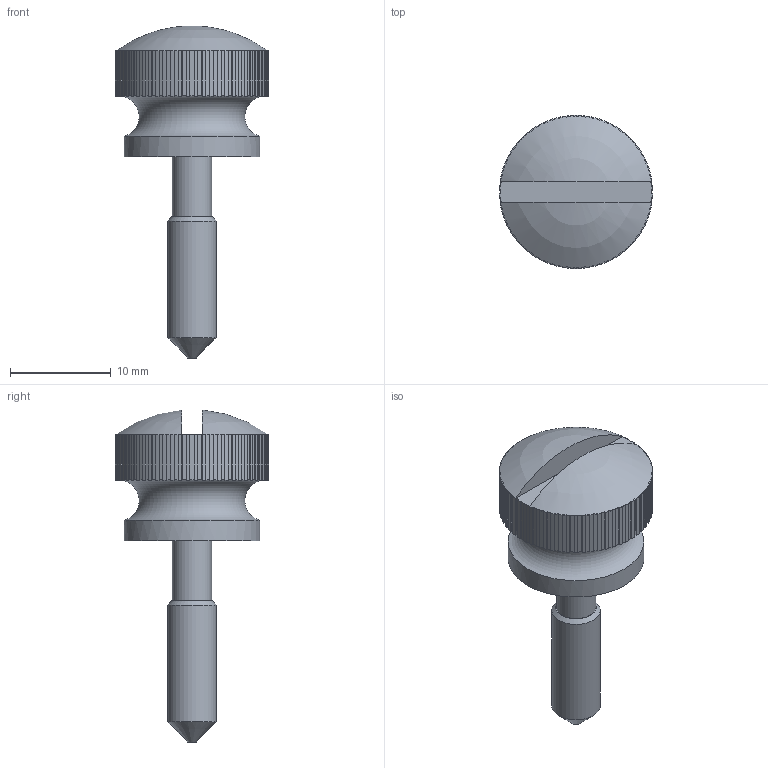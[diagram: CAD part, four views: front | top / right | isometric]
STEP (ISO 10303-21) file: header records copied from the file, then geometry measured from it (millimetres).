
FILE_DESCRIPTION(/* description */ (''),/* implementation_level */ '2;1');
FILE_NAME(/* name */ '\\SYNOLOGYNAS\web\db2\K-HSH15-M5_M\도면\M5\K-HSH15-M5-20.stp',/* time_stamp */ '2024-10-14T14:05:51+09:00',/* author */ ('user'),/* organization */ (''),/* preprocessor_version */ 'ST-DEVELOPER v15.6',/* originating_system */ 'Autodesk Inventor 2015',/* authorisation */ '');
FILE_SCHEMA (('AUTOMOTIVE_DESIGN { 1 0 10303 214 3 1 1 }'));
Length unit declared in the file: millimetre
Products named in the file (1): K-HSH15-M5-20
Bounding box: 15.19 x 15.2 x 32.96 mm (x, y, z)
Volume: 1982.1 mm3; surface area: 1246.4 mm2
Topology: 1 solids, 1 shells, 308 faces, 798 edges, 494 vertices
Faces by surface type: plane 240, cylinder 63, cone 2, sphere 2, torus 1
Full cylindrical faces by diameter (mm): 3.9 x1, 4.8 x1, 13.5 x1
Entity records: 9514 total; most frequent: CARTESIAN_POINT 2251, ORIENTED_EDGE 1580, DIRECTION 1416, EDGE_CURVE 790, AXIS2_PLACEMENT_3D 497, VERTEX_POINT 492, LINE 422, VECTOR 422
